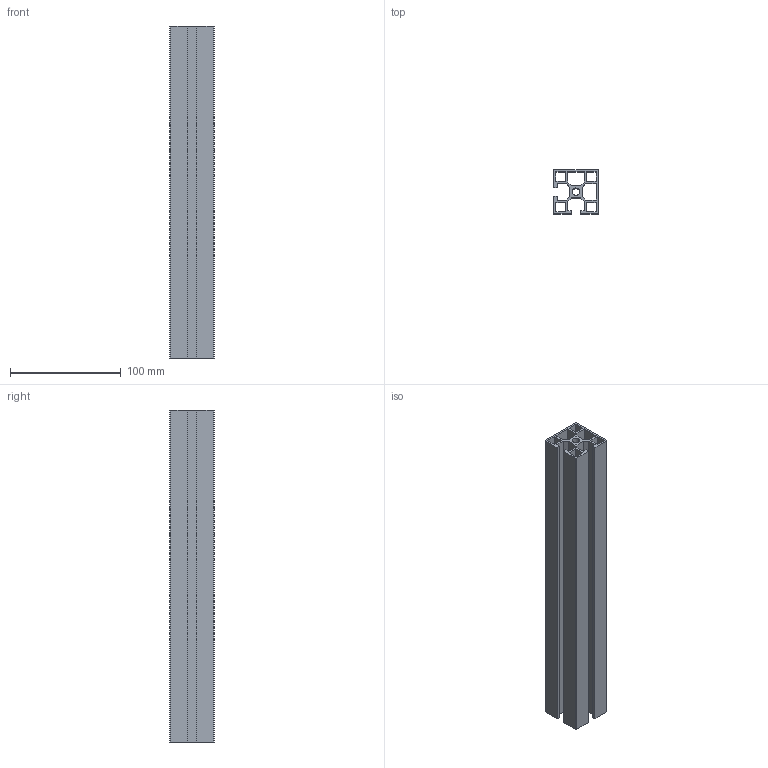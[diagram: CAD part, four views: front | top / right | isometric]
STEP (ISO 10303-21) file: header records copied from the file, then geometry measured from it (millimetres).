
FILE_DESCRIPTION (( 'STEP AP203' ), '1' );
FILE_NAME ('CG-4040FL-8.STEP', '2020-05-14T13:03:08', ( '微软用户' ), ( '微软中国' ), 'SwSTEP 2.0', 'SolidWorks 2017', '' );
FILE_SCHEMA (( 'CONFIG_CONTROL_DESIGN' ));
Length unit declared in the file: millimetre
Products named in the file (1): CG-4040FL-8
Bounding box: 40 x 40 x 300 mm (x, y, z)
Volume: 154201.5 mm3; surface area: 151969.4 mm2
Topology: 1 solids, 1 shells, 60 faces, 174 edges, 116 vertices
Faces by surface type: plane 54, cylinder 6
Entity records: 2055 total; most frequent: CARTESIAN_POINT 351, ORIENTED_EDGE 348, DIRECTION 308, EDGE_CURVE 174, VECTOR 162, LINE 162, VERTEX_POINT 116, EDGE_LOOP 74
